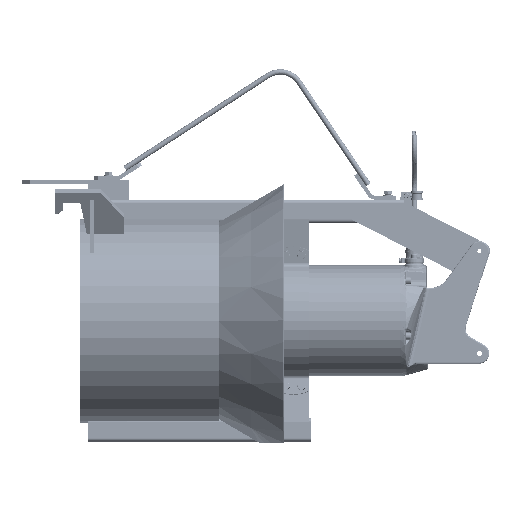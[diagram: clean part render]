
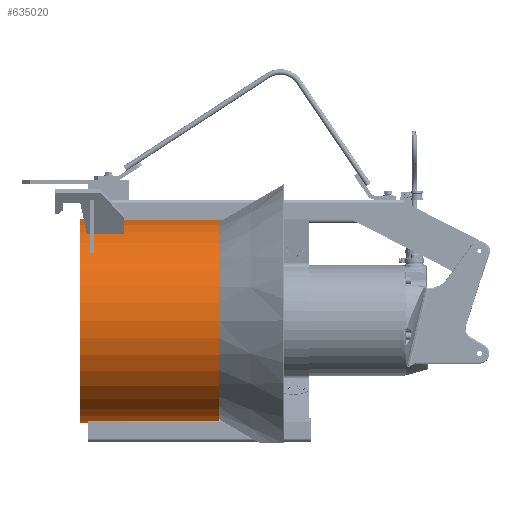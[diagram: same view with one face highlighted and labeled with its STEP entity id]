
A CAD part, top view. The second image highlights one B-rep face of the part: STEP entity #635020.
In plain terms, the highlighted cylindrical face has radius 258 mm (diameter 516 mm), a partial arc.
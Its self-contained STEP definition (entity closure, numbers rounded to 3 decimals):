
#22734 = DIRECTION ( 'NONE',  ( 0., 1., 0. ) ) ;
#25695 = CARTESIAN_POINT ( 'NONE',  ( -698.566, 241.809, -1.193 ) ) ;
#52996 = CYLINDRICAL_SURFACE ( 'NONE', #77777, 258. ) ;
#77777 = AXIS2_PLACEMENT_3D ( 'NONE', #651917, #419833, #22734 ) ;
#99253 = AXIS2_PLACEMENT_3D ( 'NONE', #142982, #430183, #325079 ) ;
#100294 = VECTOR ( 'NONE', #466687, 1000. ) ;
#100305 = DIRECTION ( 'NONE',  ( 0., -1., 0. ) ) ;
#117205 = VERTEX_POINT ( 'NONE', #189497 ) ;
#142982 = CARTESIAN_POINT ( 'NONE',  ( -698.566, -16.191, -1.193 ) ) ;
#145753 = ORIENTED_EDGE ( 'NONE', *, *, #262687, .T. ) ;
#160073 = DIRECTION ( 'NONE',  ( 1., 0., 0. ) ) ;
#176265 = ORIENTED_EDGE ( 'NONE', *, *, #265754, .T. ) ;
#176821 = EDGE_CURVE ( 'NONE', #641471, #460301, #429292, .T. ) ;
#184442 = CARTESIAN_POINT ( 'NONE',  ( -348.566, 241.809, -1.193 ) ) ;
#189497 = CARTESIAN_POINT ( 'NONE',  ( -348.566, 241.809, -1.193 ) ) ;
#225405 = CARTESIAN_POINT ( 'NONE',  ( -348.566, -274.191, -1.193 ) ) ;
#262687 = EDGE_CURVE ( 'NONE', #364950, #460301, #570843, .T. ) ;
#265754 = EDGE_CURVE ( 'NONE', #117205, #364950, #734234, .T. ) ;
#278906 = ORIENTED_EDGE ( 'NONE', *, *, #176821, .F. ) ;
#325079 = DIRECTION ( 'NONE',  ( 0., -1., 0. ) ) ;
#356567 = CARTESIAN_POINT ( 'NONE',  ( -348.566, -274.191, -1.193 ) ) ;
#364507 = EDGE_LOOP ( 'NONE', ( #278906, #584305, #176265, #145753 ) ) ;
#364950 = VERTEX_POINT ( 'NONE', #25695 ) ;
#384863 = CARTESIAN_POINT ( 'NONE',  ( -348.566, -16.191, -1.193 ) ) ;
#392457 = FACE_OUTER_BOUND ( 'NONE', #364507, .T. ) ;
#419833 = DIRECTION ( 'NONE',  ( -1., 0., 0. ) ) ;
#429292 = LINE ( 'NONE', #225405, #652699 ) ;
#430183 = DIRECTION ( 'NONE',  ( 1., 0., 0. ) ) ;
#445296 = DIRECTION ( 'NONE',  ( -1., 0., 0. ) ) ;
#460301 = VERTEX_POINT ( 'NONE', #543658 ) ;
#466687 = DIRECTION ( 'NONE',  ( -1., 0., 0. ) ) ;
#498107 = CIRCLE ( 'NONE', #676996, 258. ) ;
#543658 = CARTESIAN_POINT ( 'NONE',  ( -698.566, -274.191, -1.193 ) ) ;
#565556 = EDGE_CURVE ( 'NONE', #117205, #641471, #498107, .T. ) ;
#570843 = CIRCLE ( 'NONE', #99253, 258. ) ;
#584305 = ORIENTED_EDGE ( 'NONE', *, *, #565556, .F. ) ;
#635020 = ADVANCED_FACE ( 'NONE', ( #392457 ), #52996, .T. ) ;
#641471 = VERTEX_POINT ( 'NONE', #356567 ) ;
#651917 = CARTESIAN_POINT ( 'NONE',  ( -348.566, -16.191, -1.193 ) ) ;
#652699 = VECTOR ( 'NONE', #445296, 1000. ) ;
#676996 = AXIS2_PLACEMENT_3D ( 'NONE', #384863, #160073, #100305 ) ;
#734234 = LINE ( 'NONE', #184442, #100294 ) ;
